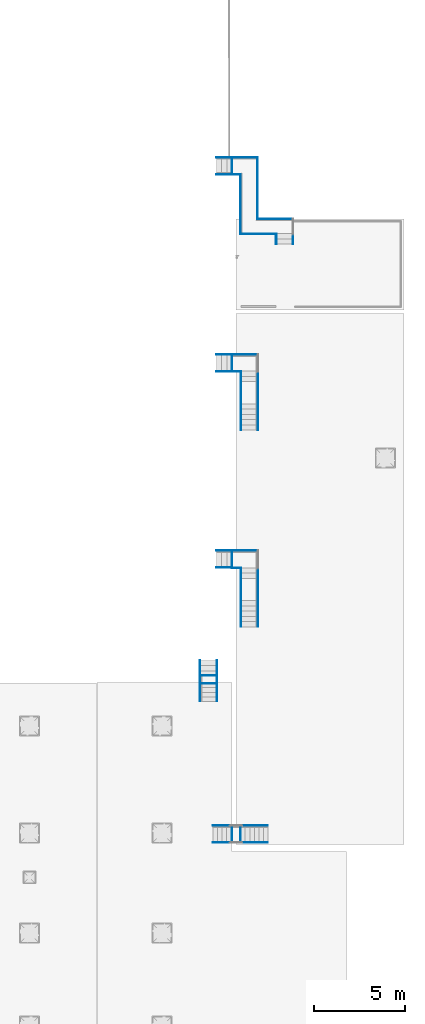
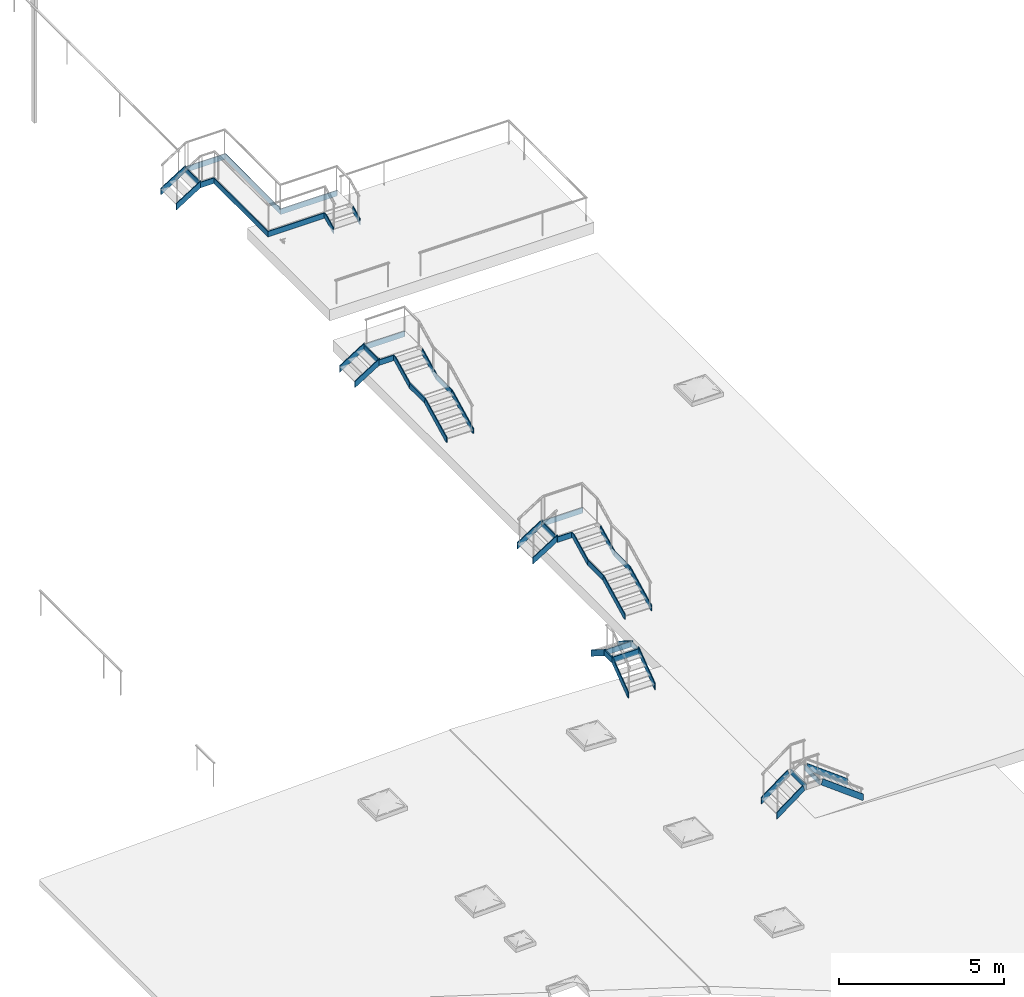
# One storey, part 1 of 15: 51 members, 10 elements without a shape of their own.
"""IFC2X3 building model written with IfcOpenShell, lengths in centimetres."""

from ifc_helpers import new_model, entity, si_unit, converted_unit, derived_unit, direction, frame, origin, place, context, subcontext, project, spatial, polyline, outline, extrude, material, type_object, element, aggregate, save


model = new_model("IFC2X3")

# Units and contexts
model_context = context("Model", 3, precision=0.001, world=origin(), true_north=direction((6.12303176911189e-17, 1.0)))
body_context = subcontext(model_context, "Body", "Model", "MODEL_VIEW")
ifc_project = project(units=[si_unit("LENGTHUNIT", "METRE", prefix="CENTI"), si_unit("AREAUNIT", "SQUARE_METRE"), si_unit("VOLUMEUNIT", "CUBIC_METRE"), converted_unit("PLANEANGLEUNIT", "DEGREE", entity("IfcRatioMeasure", 0.0174532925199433), si_unit("PLANEANGLEUNIT", "RADIAN"), dimensions=[0, 0, 0, 0, 0, 0, 0]), si_unit("MASSUNIT", "GRAM", prefix="KILO"), si_unit("TIMEUNIT", "SECOND"), si_unit("FREQUENCYUNIT", "HERTZ"), si_unit("THERMODYNAMICTEMPERATUREUNIT", "DEGREE_CELSIUS"), derived_unit("THERMALTRANSMITTANCEUNIT", [(si_unit("MASSUNIT", "GRAM", prefix="KILO"), 1), (si_unit("THERMODYNAMICTEMPERATUREUNIT", "KELVIN"), -1), (si_unit("TIMEUNIT", "SECOND"), -3)]), derived_unit("VOLUMETRICFLOWRATEUNIT", [(si_unit("LENGTHUNIT", "METRE"), 3), (si_unit("TIMEUNIT", "SECOND"), -1)]), si_unit("ELECTRICCURRENTUNIT", "AMPERE"), si_unit("ELECTRICVOLTAGEUNIT", "VOLT"), si_unit("POWERUNIT", "WATT"), si_unit("FORCEUNIT", "NEWTON", prefix="KILO"), si_unit("ILLUMINANCEUNIT", "LUX"), si_unit("LUMINOUSFLUXUNIT", "LUMEN"), si_unit("LUMINOUSINTENSITYUNIT", "CANDELA"), derived_unit("USERDEFINED", [(si_unit("MASSUNIT", "GRAM", prefix="KILO"), -1), (si_unit("LENGTHUNIT", "METRE"), -2), (si_unit("TIMEUNIT", "SECOND"), 3), (si_unit("LUMINOUSFLUXUNIT", "LUMEN"), 1)]), derived_unit("LINEARVELOCITYUNIT", [(si_unit("LENGTHUNIT", "METRE"), 1), (si_unit("TIMEUNIT", "SECOND"), -1)]), si_unit("PRESSUREUNIT", "PASCAL"), derived_unit("USERDEFINED", [(si_unit("LENGTHUNIT", "METRE"), -2), (si_unit("MASSUNIT", "GRAM", prefix="KILO"), 1), (si_unit("TIMEUNIT", "SECOND"), -2)])], contexts=[model_context])

# Site, building, storey
site_placement = place(None, frame((8.62739174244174, -249.285249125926, 0.0)))
site = spatial("IfcSite", under=ifc_project, at=site_placement, Name="Default", CompositionType="ELEMENT")
building_placement = place(site_placement, origin())
building = spatial("IfcBuilding", under=site, at=building_placement, CompositionType="ELEMENT")
storey_placement = place(building_placement, frame((0.0, 0.0, 801.0)))
storey = spatial("IfcBuildingStorey", under=building, at=storey_placement, Name="Acrotère E3", CompositionType="ELEMENT", Elevation=801.0)

# Stair, members
stair_1_placement = place(building_placement, frame((0.0, 0.0, 801.0)))
stair_1 = element("IfcStair", 1, at=stair_1_placement, inside=storey, Name="Escalier assemblé:Escalier", ShapeType="NOTDEFINED")
ifc_material = material(Name="Acier, 45-345")
member_type = type_object("IfcMemberType", Name="Limon à la française:Limon à la française - 30 mm", PredefinedType="STRINGER")
member_1_placement = place(stair_1_placement, origin())
member_1 = element("IfcMember", 2, at=member_1_placement, type_object=member_type, material=ifc_material, Name="Escalier assemblé:Escalier:1444679 Stringer 1", ObjectType="Escalier assemblé:Escalier métallique", context=body_context, shape_type="SweptSolid", body=[
    extrude(outline(polyline([(-53.9089825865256, -33.6089014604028), (-47.9318833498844, -33.6089014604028), (80.2436891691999, 30.7244318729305), (75.5061593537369, 50.7244318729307), (-53.9089825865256, -14.2310608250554), (-53.9089825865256, -33.6089014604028)])), frame((3080.90482781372, 3906.09417595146, -43.3910985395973), z_axis=(1.0, 0.0, 0.0), x_axis=(0.0, 1.0, 0.0)), (0.0, 0.0, 1.0), 3.00000000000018),
])
member_2_placement = place(stair_1_placement, origin())
member_2 = element("IfcMember", 3, at=member_2_placement, type_object=member_type, material=ifc_material, Name="Escalier assemblé:Escalier:1444679 Stringer 2", ObjectType="Escalier assemblé:Escalier métallique", context=body_context, shape_type="SweptSolid", body=[
    extrude(outline(polyline([(-53.9089825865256, -33.6089014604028), (-47.9318833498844, -33.6089014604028), (80.2436891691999, 30.7244318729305), (75.5061593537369, 50.7244318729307), (-53.9089825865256, -14.2310608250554), (-53.9089825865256, -33.6089014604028)])), frame((3173.90482781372, 3906.09417595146, -43.3910985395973), z_axis=(1.0, 0.0, 0.0), x_axis=(0.0, 1.0, 0.0)), (0.0, 0.0, 1.0), 3.00000000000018),
])
member_3_placement = place(stair_1_placement, origin())
member_3 = element("IfcMember", 4, at=member_3_placement, type_object=member_type, material=ifc_material, Name="Escalier assemblé:Escalier:1444679 Stringer 3", ObjectType="Escalier assemblé:Escalier métallique", context=body_context, shape_type="SweptSolid", body=[
    extrude(outline(polyline([(-65.2542659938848, -10.8709298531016), (40.8696538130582, -10.8709298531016), (48.0744777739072, 3.48371941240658), (36.8268705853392, 9.12907014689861), (-60.5167361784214, 9.12907014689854), (-65.2542659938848, -10.8709298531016)])), frame((3080.90482781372, 4133.07190307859, 26.3210727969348), z_axis=(1.0, 0.0, 0.0), x_axis=(0.0, 0.893741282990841, 0.44858278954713)), (0.0, 0.0, 1.0), 3.00000000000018),
])
member_4_placement = place(stair_1_placement, origin())
member_4 = element("IfcMember", 5, at=member_4_placement, type_object=member_type, material=ifc_material, Name="Escalier assemblé:Escalier:1444679 Stringer 4", ObjectType="Escalier assemblé:Escalier métallique", context=body_context, shape_type="SweptSolid", body=[
    extrude(outline(polyline([(-51.0405682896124, -10.0), (46.3030384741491, -10.0), (51.0405682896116, 10.0), (-46.303038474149, 10.0), (-51.0405682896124, -10.0)])), frame((3173.90482781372, 4120.75921879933, 19.1666666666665), z_axis=(1.0, 0.0, 0.0), x_axis=(0.0, 0.893741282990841, 0.44858278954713)), (0.0, 0.0, 1.0), 3.00000000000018),
])
member_5_placement = place(stair_1_placement, origin())
member_5 = element("IfcMember", 6, at=member_5_placement, type_object=member_type, material=ifc_material, Name="Escalier assemblé:Escalier:1444679 Stringer 5", ObjectType="Escalier assemblé:Escalier métallique", context=body_context, shape_type="SweptSolid", body=[
    extrude(outline(polyline([(-44.2762943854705, -10.0), (49.0138242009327, -10.0), (44.2762943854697, 10.0), (-49.0138242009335, 10.0), (-44.2762943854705, -10.0)])), frame((3080.90482781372, 4030.61415950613, -2.66666666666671), z_axis=(1.0, 0.0, 0.0), x_axis=(0.0, -1.0, 0.0)), (0.0, 0.0, 1.0), 3.00000000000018),
])
member_6_placement = place(stair_1_placement, origin())
member_6 = element("IfcMember", 7, at=member_6_placement, type_object=member_type, material=ifc_material, Name="Escalier assemblé:Escalier:1444679 Stringer 6", ObjectType="Escalier assemblé:Escalier métallique", context=body_context, shape_type="SweptSolid", body=[
    extrude(outline(polyline([(-73.0, -1.49999999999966), (73.0, -1.49999999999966), (70.0, 1.50000000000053), (-70.0, 1.50000000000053), (-73.0, -1.49999999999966)])), frame((3103.90482780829, 4271.97531195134, 31.0), z_axis=(0.0, 0.0, 1.0), x_axis=(-1.0, 0.0, 0.0)), (0.0, 0.0, 1.0), 20.0),
])
member_7_placement = place(stair_1_placement, origin())
member_7 = element("IfcMember", 8, at=member_7_placement, type_object=member_type, material=ifc_material, Name="Escalier assemblé:Escalier:1444679 Stringer 7", ObjectType="Escalier assemblé:Escalier métallique", context=body_context, shape_type="SweptSolid", body=[
    extrude(outline(polyline([(-49.5000000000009, -1.50000000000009), (49.5, -1.50000000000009), (46.4999999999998, 1.50000000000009), (-46.5000000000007, 1.50000000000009), (-49.5000000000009, -1.50000000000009)])), frame((3032.40482780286, 4223.97531195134, 31.0), z_axis=(0.0, 0.0, 1.0), x_axis=(0.0, -1.0, 0.0)), (0.0, 0.0, 1.0), 20.0),
])
member_8_placement = place(stair_1_placement, origin())
member_8 = element("IfcMember", 9, at=member_8_placement, type_object=member_type, material=ifc_material, Name="Escalier assemblé:Escalier:1444679 Stringer 9", ObjectType="Escalier assemblé:Escalier métallique", context=body_context, shape_type="SweptSolid", body=[
    extrude(outline(polyline([(-44.2762943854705, -10.0), (49.0138242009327, -10.0), (44.2762943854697, 10.0), (-49.0138242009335, 10.0), (-44.2762943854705, -10.0)])), frame((3173.90482781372, 4030.61415950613, -2.66666666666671), z_axis=(1.0, 0.0, 0.0), x_axis=(0.0, 1.0, 0.0)), (0.0, 0.0, 1.0), 3.00000000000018),
])
member_9_placement = place(stair_1_placement, origin())
member_9 = element("IfcMember", 10, at=member_9_placement, type_object=member_type, material=ifc_material, Name="Escalier assemblé:Escalier:1444679 Stringer 10", ObjectType="Escalier assemblé:Escalier métallique", context=body_context, shape_type="SweptSolid", body=[
    extrude(outline(polyline([(-27.2500000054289, -1.50000000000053), (25.7500000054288, -1.50000000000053), (25.7500000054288, 1.49999999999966), (-24.2500000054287, 1.49999999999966), (-27.2500000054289, -1.50000000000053)])), frame((3058.15482780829, 4175.97531195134, 31.0)), (0.0, 0.0, 1.0), 20.0),
])
aggregate(stair_1, [member_1, member_2, member_3, member_4, member_5, member_6, member_7, member_8, member_9])

stair_2_placement = place(storey_placement, origin())
stair_2 = element("IfcStair", 11, at=stair_2_placement, inside=storey, Name="Escalier assemblé:Escalier", ShapeType="NOTDEFINED")
member_10_placement = place(stair_2_placement, origin())
member_10 = element("IfcMember", 12, at=member_10_placement, type_object=member_type, material=ifc_material, Name="Escalier assemblé:Escalier:1452997 Stringer 1", ObjectType="Escalier assemblé:Escalier métallique toiture", context=body_context, shape_type="SweptSolid", body=[
    extrude(outline(polyline([(-45.091187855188, -10.0), (57.658237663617, -10.0), (45.0911878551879, 10.0), (-57.6582376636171, 10.0), (-45.091187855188, -10.0)])), frame((2990.40482781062, 4270.47531195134, 17.2547232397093), z_axis=(0.0, 1.0, 0.0), x_axis=(0.846720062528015, 0.0, 0.532038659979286)), (0.0, 0.0, 1.0), 3.00000000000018),
])
member_11_placement = place(stair_2_placement, origin())
member_11 = element("IfcMember", 13, at=member_11_placement, type_object=member_type, material=ifc_material, Name="Escalier assemblé:Escalier:1452997 Stringer 2", ObjectType="Escalier assemblé:Escalier métallique toiture", context=body_context, shape_type="SweptSolid", body=[
    extrude(outline(polyline([(-45.091187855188, -10.0), (57.658237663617, -10.0), (45.0911878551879, 10.0), (-57.6582376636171, 10.0), (-45.091187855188, -10.0)])), frame((2990.40482781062, 4177.47531195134, 17.2547232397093), z_axis=(0.0, 1.0, 0.0), x_axis=(0.846720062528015, 0.0, 0.532038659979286)), (0.0, 0.0, 1.0), 3.00000000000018),
])
aggregate(stair_2, [member_10, member_11])

stair_3_placement = place(storey_placement, origin())
stair_3 = element("IfcStair", 14, at=stair_3_placement, inside=storey, Name="Escalier assemblé:Escalier", ShapeType="NOTDEFINED")
member_12_placement = place(stair_3_placement, origin())
member_12 = element("IfcMember", 15, at=member_12_placement, type_object=member_type, material=ifc_material, Name="Escalier assemblé:Escalier:1453682 Stringer 1", ObjectType="Escalier assemblé:Escalier métallique", context=body_context, shape_type="SweptSolid", body=[
    extrude(outline(polyline([(-53.9089825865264, -33.6089014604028), (-47.9318833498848, -33.6089014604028), (80.243689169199, 30.7244318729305), (75.506159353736, 50.7244318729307), (-53.9089825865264, -14.2310608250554), (-53.9089825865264, -33.6089014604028)])), frame((3080.90482780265, 4987.84070358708, -43.3910985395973), z_axis=(1.0, 0.0, 0.0), x_axis=(0.0, 1.0, 0.0)), (0.0, 0.0, 1.0), 3.00000000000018),
])
member_13_placement = place(stair_3_placement, origin())
member_13 = element("IfcMember", 16, at=member_13_placement, type_object=member_type, material=ifc_material, Name="Escalier assemblé:Escalier:1453682 Stringer 2", ObjectType="Escalier assemblé:Escalier métallique", context=body_context, shape_type="SweptSolid", body=[
    extrude(outline(polyline([(-53.9089825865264, -33.6089014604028), (-47.9318833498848, -33.6089014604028), (80.243689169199, 30.7244318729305), (75.506159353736, 50.7244318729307), (-53.9089825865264, -14.2310608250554), (-53.9089825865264, -33.6089014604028)])), frame((3173.90482780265, 4987.84070358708, -43.3910985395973), z_axis=(1.0, 0.0, 0.0), x_axis=(0.0, 1.0, 0.0)), (0.0, 0.0, 1.0), 3.00000000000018),
])
member_14_placement = place(stair_3_placement, origin())
member_14 = element("IfcMember", 17, at=member_14_placement, type_object=member_type, material=ifc_material, Name="Escalier assemblé:Escalier:1453682 Stringer 3", ObjectType="Escalier assemblé:Escalier métallique", context=body_context, shape_type="SweptSolid", body=[
    extrude(outline(polyline([(-65.2542659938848, -10.8709298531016), (40.8696538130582, -10.8709298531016), (48.0744777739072, 3.48371941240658), (36.8268705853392, 9.12907014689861), (-60.5167361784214, 9.12907014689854), (-65.2542659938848, -10.8709298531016)])), frame((3080.90482780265, 5214.07382690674, 26.3210727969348), z_axis=(1.0, 0.0, 0.0), x_axis=(0.0, 0.893741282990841, 0.44858278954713)), (0.0, 0.0, 1.0), 3.00000000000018),
])
member_15_placement = place(stair_3_placement, origin())
member_15 = element("IfcMember", 18, at=member_15_placement, type_object=member_type, material=ifc_material, Name="Escalier assemblé:Escalier:1453682 Stringer 4", ObjectType="Escalier assemblé:Escalier métallique", context=body_context, shape_type="SweptSolid", body=[
    extrude(outline(polyline([(-51.0405682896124, -10.0), (46.3030384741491, -10.0), (51.0405682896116, 10.0), (-46.303038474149, 10.0), (-51.0405682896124, -10.0)])), frame((3173.90482780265, 5201.76114262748, 19.1666666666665), z_axis=(1.0, 0.0, 0.0), x_axis=(0.0, 0.893741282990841, 0.44858278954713)), (0.0, 0.0, 1.0), 3.00000000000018),
])
member_16_placement = place(stair_3_placement, origin())
member_16 = element("IfcMember", 19, at=member_16_placement, type_object=member_type, material=ifc_material, Name="Escalier assemblé:Escalier:1453682 Stringer 5", ObjectType="Escalier assemblé:Escalier métallique", context=body_context, shape_type="SweptSolid", body=[
    extrude(outline(polyline([(-43.9039924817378, -10.0), (48.6415222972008, -10.0), (43.9039924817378, 10.0), (-48.6415222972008, 10.0), (-43.9039924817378, -10.0)])), frame((3080.90482780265, 5111.98838523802, -2.66666666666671), z_axis=(1.0, 0.0, 0.0), x_axis=(0.0, -1.0, 0.0)), (0.0, 0.0, 1.0), 3.00000000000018),
])
member_17_placement = place(stair_3_placement, origin())
member_17 = element("IfcMember", 20, at=member_17_placement, type_object=member_type, material=ifc_material, Name="Escalier assemblé:Escalier:1453682 Stringer 6", ObjectType="Escalier assemblé:Escalier métallique", context=body_context, shape_type="SweptSolid", body=[
    extrude(outline(polyline([(-73.0, -1.50000000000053), (73.0, -1.50000000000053), (70.0, 1.49999999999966), (-70.0, 1.49999999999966), (-73.0, -1.50000000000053)])), frame((3103.90482780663, 5349.97723577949, 31.0), z_axis=(0.0, 0.0, 1.0), x_axis=(-1.0, 0.0, 0.0)), (0.0, 0.0, 1.0), 20.0),
])
member_18_placement = place(stair_3_placement, origin())
member_18 = element("IfcMember", 21, at=member_18_placement, type_object=member_type, material=ifc_material, Name="Escalier assemblé:Escalier:1453682 Stringer 7", ObjectType="Escalier assemblé:Escalier métallique", context=body_context, shape_type="SweptSolid", body=[
    extrude(outline(polyline([(-48.0, -1.50000000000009), (48.0, -1.50000000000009), (45.0, 1.50000000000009), (-45.0, 1.50000000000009), (-48.0, -1.50000000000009)])), frame((3032.40482781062, 5303.47723577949, 31.0), z_axis=(0.0, 0.0, 1.0), x_axis=(0.0, -1.0, 0.0)), (0.0, 0.0, 1.0), 20.0),
])
member_19_placement = place(stair_3_placement, origin())
member_19 = element("IfcMember", 22, at=member_19_placement, type_object=member_type, material=ifc_material, Name="Escalier assemblé:Escalier:1453682 Stringer 9", ObjectType="Escalier assemblé:Escalier métallique", context=body_context, shape_type="SweptSolid", body=[
    extrude(outline(polyline([(-27.2499999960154, -1.50000000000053), (25.7499999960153, -1.50000000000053), (25.7499999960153, 1.49999999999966), (-24.2499999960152, 1.49999999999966), (-27.2499999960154, -1.50000000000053)])), frame((3058.15482780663, 5256.97723577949, 31.0)), (0.0, 0.0, 1.0), 20.0),
])
member_20_placement = place(stair_3_placement, origin())
member_20 = element("IfcMember", 23, at=member_20_placement, type_object=member_type, material=ifc_material, Name="Escalier assemblé:Escalier:1453682 Stringer 10", ObjectType="Escalier assemblé:Escalier métallique", context=body_context, shape_type="SweptSolid", body=[
    extrude(outline(polyline([(-43.9039924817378, -10.0), (48.6415222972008, -10.0), (43.9039924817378, 10.0), (-48.6415222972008, 10.0), (-43.9039924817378, -10.0)])), frame((3173.90482780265, 5111.98838523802, -2.66666666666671), z_axis=(1.0, 0.0, 0.0), x_axis=(0.0, 1.0, 0.0)), (0.0, 0.0, 1.0), 3.00000000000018),
])
aggregate(stair_3, [member_12, member_13, member_14, member_15, member_16, member_17, member_18, member_19, member_20])

stair_4_placement = place(storey_placement, origin())
stair_4 = element("IfcStair", 24, at=stair_4_placement, inside=storey, Name="Escalier assemblé:Escalier", ShapeType="NOTDEFINED")
member_21_placement = place(stair_4_placement, origin())
member_21 = element("IfcMember", 25, at=member_21_placement, type_object=member_type, material=ifc_material, Name="Escalier assemblé:Escalier:1453709 Stringer 1", ObjectType="Escalier assemblé:Escalier métallique toiture", context=body_context, shape_type="SweptSolid", body=[
    extrude(outline(polyline([(-45.091187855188, -10.0), (57.658237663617, -10.0), (45.0911878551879, 10.0), (-57.6582376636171, 10.0), (-45.091187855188, -10.0)])), frame((2990.40482781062, 5348.47723577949, 17.2547232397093), z_axis=(0.0, 1.0, 0.0), x_axis=(0.846720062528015, 0.0, 0.532038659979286)), (0.0, 0.0, 1.0), 3.00000000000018),
])
member_22_placement = place(stair_4_placement, origin())
member_22 = element("IfcMember", 26, at=member_22_placement, type_object=member_type, material=ifc_material, Name="Escalier assemblé:Escalier:1453709 Stringer 2", ObjectType="Escalier assemblé:Escalier métallique toiture", context=body_context, shape_type="SweptSolid", body=[
    extrude(outline(polyline([(-45.091187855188, -10.0), (57.658237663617, -10.0), (45.0911878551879, 10.0), (-57.6582376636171, 10.0), (-45.091187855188, -10.0)])), frame((2990.40482781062, 5255.47723577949, 17.2547232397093), z_axis=(0.0, 1.0, 0.0), x_axis=(0.846720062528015, 0.0, 0.532038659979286)), (0.0, 0.0, 1.0), 3.00000000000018),
])
aggregate(stair_4, [member_21, member_22])

stair_5_placement = place(storey_placement, origin())
stair_5 = element("IfcStair", 27, at=stair_5_placement, inside=storey, Name="Escalier assemblé:Escalier", ShapeType="NOTDEFINED")
member_23_placement = place(stair_5_placement, origin())
member_23 = element("IfcMember", 28, at=member_23_placement, type_object=member_type, material=ifc_material, Name="Escalier assemblé:Escalier:1453820 Stringer 1", ObjectType="Escalier assemblé:Escalier métallique", context=body_context, shape_type="SweptSolid", body=[
    extrude(outline(polyline([(-39.5635080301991, -10.8709298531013), (21.975553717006, -10.8709298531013), (29.180377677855, 3.48371941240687), (17.932770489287, 9.12907014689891), (-29.5251938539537, 9.12907014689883), (-39.5635080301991, -10.8709298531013)])), frame((3274.90482780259, 5987.46323652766, 34.7966409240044), z_axis=(1.0, 0.0, 0.0), x_axis=(0.0, 0.893741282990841, 0.448582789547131)), (0.0, 0.0, 1.0), 3.00000000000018),
])
member_24_placement = place(stair_5_placement, origin())
member_24 = element("IfcMember", 29, at=member_24_placement, type_object=member_type, material=ifc_material, Name="Escalier assemblé:Escalier:1453820 Stringer 2", ObjectType="Escalier assemblé:Escalier métallique", context=body_context, shape_type="SweptSolid", body=[
    extrude(outline(polyline([(-30.0733353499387, -10.0), (22.6854133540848, -10.0), (27.4229431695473, 10.0), (-20.0350211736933, 10.0), (-30.0733353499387, -10.0)])), frame((3367.90482780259, 5979.3721615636, 29.7611268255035), z_axis=(1.0, 0.0, 0.0), x_axis=(0.0, 0.893741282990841, 0.448582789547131)), (0.0, 0.0, 1.0), 3.00000000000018),
])
member_25_placement = place(stair_5_placement, origin())
member_25 = element("IfcMember", 30, at=member_25_placement, type_object=member_type, material=ifc_material, Name="Escalier assemblé:Escalier:1453820 Stringer 3", ObjectType="Escalier assemblé:Escalier métallique", context=body_context, shape_type="SweptSolid", body=[
    extrude(outline(polyline([(-71.4999999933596, -1.50000000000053), (71.4999999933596, -1.50000000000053), (68.4999999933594, 1.49999999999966), (-68.4999999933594, 1.49999999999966), (-71.4999999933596, -1.50000000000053)])), frame((3102.40482780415, 6433.97742132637, 31.0), z_axis=(0.0, 0.0, 1.0), x_axis=(-1.0, 0.0, 0.0)), (0.0, 0.0, 1.0), 20.0),
])
member_26_placement = place(stair_5_placement, origin())
member_26 = element("IfcMember", 31, at=member_26_placement, type_object=member_type, material=ifc_material, Name="Escalier assemblé:Escalier:1453820 Stringer 4", ObjectType="Escalier assemblé:Escalier métallique", context=body_context, shape_type="SweptSolid", body=[
    extrude(outline(polyline([(-48.0, -1.50000000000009), (48.0, -1.50000000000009), (45.0, 1.50000000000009), (-45.0, 1.50000000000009), (-48.0, -1.50000000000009)])), frame((3032.40482781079, 6387.47742132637, 31.0), z_axis=(0.0, 0.0, 1.0), x_axis=(0.0, -1.0, 0.0)), (0.0, 0.0, 1.0), 20.0),
])
member_27_placement = place(stair_5_placement, origin())
member_27 = element("IfcMember", 32, at=member_27_placement, type_object=member_type, material=ifc_material, Name="Escalier assemblé:Escalier:1453820 Stringer 5", ObjectType="Escalier assemblé:Escalier métallique", context=body_context, shape_type="SweptSolid", body=[
    extrude(outline(polyline([(-167.248606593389, -1.5000000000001), (170.24860659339, -1.50000000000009), (167.248606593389, 1.5000000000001), (-170.248606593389, 1.50000000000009), (-167.248606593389, -1.5000000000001)])), frame((3172.40482779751, 6265.22881473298, 31.0), z_axis=(0.0, 0.0, 1.0), x_axis=(0.0, 1.0, 0.0)), (0.0, 0.0, 1.0), 20.0),
])
member_28_placement = place(stair_5_placement, origin())
member_28 = element("IfcMember", 33, at=member_28_placement, type_object=member_type, material=ifc_material, Name="Escalier assemblé:Escalier:1453820 Stringer 6", ObjectType="Escalier assemblé:Escalier métallique", context=body_context, shape_type="SweptSolid", body=[
    extrude(outline(polyline([(-100.0, -1.50000000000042), (97.0, -1.50000000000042), (100.0, 1.49999999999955), (-97.0, 1.49999999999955), (-100.0, -1.50000000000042)])), frame((3270.90482780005, 6096.48020813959, 31.0), z_axis=(0.0, 0.0, 1.0), x_axis=(-1.0, 0.0, 0.0)), (0.0, 0.0, 1.0), 20.0),
])
member_29_placement = place(stair_5_placement, origin())
member_29 = element("IfcMember", 34, at=member_29_placement, type_object=member_type, material=ifc_material, Name="Escalier assemblé:Escalier:1453820 Stringer 7", ObjectType="Escalier assemblé:Escalier métallique", context=body_context, shape_type="SweptSolid", body=[
    extrude(outline(polyline([(-25.0, -1.50000000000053), (22.0, -1.50000000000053), (25.0, 1.49999999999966), (-22.0, 1.49999999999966), (-25.0, -1.50000000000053)])), frame((3055.90482781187, 6340.97742132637, 31.0)), (0.0, 0.0, 1.0), 20.0),
])
member_30_placement = place(stair_5_placement, origin())
member_30 = element("IfcMember", 35, at=member_30_placement, type_object=member_type, material=ifc_material, Name="Escalier assemblé:Escalier:1453820 Stringer 8", ObjectType="Escalier assemblé:Escalier métallique", context=body_context, shape_type="SweptSolid", body=[
    extrude(outline(polyline([(-162.248606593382, -1.5000000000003), (165.248606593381, -1.50000000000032), (162.248606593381, 1.49999999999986), (-165.248606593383, 1.49999999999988), (-162.248606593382, -1.5000000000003)])), frame((3079.40482781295, 6177.22881473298, 31.0), z_axis=(0.0, 0.0, 1.0), x_axis=(0.0, -1.0, 0.0)), (0.0, 0.0, 1.0), 20.0),
])
member_31_placement = place(stair_5_placement, origin())
member_31 = element("IfcMember", 36, at=member_31_placement, type_object=member_type, material=ifc_material, Name="Escalier assemblé:Escalier:1453820 Stringer 10", ObjectType="Escalier assemblé:Escalier métallique", context=body_context, shape_type="SweptSolid", body=[
    extrude(outline(polyline([(-100.749999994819, -1.49999999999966), (99.2499999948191, -1.49999999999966), (99.2499999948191, 1.50000000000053), (-97.749999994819, 1.50000000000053), (-100.749999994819, -1.49999999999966)])), frame((3178.65482780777, 6013.4802081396, 31.0)), (0.0, 0.0, 1.0), 20.0),
])
aggregate(stair_5, [member_23, member_24, member_25, member_26, member_27, member_28, member_29, member_30, member_31])

stair_6_placement = place(storey_placement, origin())
stair_6 = element("IfcStair", 37, at=stair_6_placement, inside=storey, Name="Escalier assemblé:Escalier", ShapeType="NOTDEFINED")
member_32_placement = place(stair_6_placement, origin())
member_32 = element("IfcMember", 38, at=member_32_placement, type_object=member_type, material=ifc_material, Name="Escalier assemblé:Escalier:1453845 Stringer 1", ObjectType="Escalier assemblé:Escalier métallique toiture", context=body_context, shape_type="SweptSolid", body=[
    extrude(outline(polyline([(-45.091187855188, -10.0), (57.658237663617, -10.0), (45.0911878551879, 10.0), (-57.6582376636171, 10.0), (-45.091187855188, -10.0)])), frame((2990.40482781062, 6432.47742132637, 17.2547232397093), z_axis=(0.0, 1.0, 0.0), x_axis=(0.846720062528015, 0.0, 0.532038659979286)), (0.0, 0.0, 1.0), 3.00000000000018),
])
member_33_placement = place(stair_6_placement, origin())
member_33 = element("IfcMember", 39, at=member_33_placement, type_object=member_type, material=ifc_material, Name="Escalier assemblé:Escalier:1453845 Stringer 2", ObjectType="Escalier assemblé:Escalier métallique toiture", context=body_context, shape_type="SweptSolid", body=[
    extrude(outline(polyline([(-45.091187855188, -10.0), (57.658237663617, -10.0), (45.0911878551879, 10.0), (-57.6582376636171, 10.0), (-45.091187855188, -10.0)])), frame((2990.40482781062, 6339.47742132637, 17.2547232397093), z_axis=(0.0, 1.0, 0.0), x_axis=(0.846720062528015, 0.0, 0.532038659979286)), (0.0, 0.0, 1.0), 3.00000000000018),
])
aggregate(stair_6, [member_32, member_33])

stair_7_placement = place(building_placement, frame((0.0, 0.0, 801.0)))
stair_7 = element("IfcStair", 40, at=stair_7_placement, inside=storey, Name="Escalier assemblé:Escalier", ShapeType="NOTDEFINED")
member_34_placement = place(stair_7_placement, origin())
member_34 = element("IfcMember", 41, at=member_34_placement, type_object=member_type, material=ifc_material, Name="Escalier assemblé:Escalier:1460621 Stringer 1", ObjectType="Escalier assemblé:Escalier métallique toiture", context=body_context, shape_type="SweptSolid", body=[
    extrude(outline(polyline([(-58.7832033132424, -51.5965735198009), (-54.7755697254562, -51.5965735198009), (89.4992394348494, 56.4034264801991), (82.8427369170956, 76.4034264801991), (-58.7832033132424, -29.6137059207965), (-58.7832033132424, -51.5965735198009)])), frame((3172.1216245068, 2664.98020806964, -25.4034264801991), z_axis=(0.0, 1.0, 0.0), x_axis=(-1.0, 0.0, 0.0)), (0.0, 0.0, 1.0), 3.00000000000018),
])
member_35_placement = place(stair_7_placement, origin())
member_35 = element("IfcMember", 42, at=member_35_placement, type_object=member_type, material=ifc_material, Name="Escalier assemblé:Escalier:1460621 Stringer 2", ObjectType="Escalier assemblé:Escalier métallique toiture", context=body_context, shape_type="SweptSolid", body=[
    extrude(outline(polyline([(-58.7832033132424, -51.5965735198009), (-54.7755697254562, -51.5965735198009), (89.4992394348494, 56.4034264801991), (82.8427369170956, 76.4034264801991), (-58.7832033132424, -29.6137059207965), (-58.7832033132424, -51.5965735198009)])), frame((3172.1216245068, 2757.98020806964, -25.4034264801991), z_axis=(0.0, 1.0, 0.0), x_axis=(-1.0, 0.0, 0.0)), (0.0, 0.0, 1.0), 3.00000000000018),
])
member_36_placement = place(stair_7_placement, origin())
member_36 = element("IfcMember", 43, at=member_36_placement, type_object=member_type, material=ifc_material, Name="Escalier assemblé:Escalier:1460621 Stringer 4", ObjectType="Escalier assemblé:Escalier métallique toiture", context=body_context, shape_type="SweptSolid", body=[
    extrude(outline(polyline([(-48.0, -1.49999999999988), (48.0, -1.49999999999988), (45.0, 1.5000000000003), (-45.0, 1.50000000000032), (-48.0, -1.49999999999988)])), frame((3032.40482782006, 2712.98020806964, 31.0), z_axis=(0.0, 0.0, 1.0), x_axis=(0.0, -1.0, 0.0)), (0.0, 0.0, 1.0), 20.0),
])
aggregate(stair_7, [member_34, member_35, member_36])

stair_8_placement = place(building_placement, frame((0.0, 0.0, 801.0)))
stair_8 = element("IfcStair", 44, at=stair_8_placement, inside=storey, Name="Escalier assemblé:Escalier", ShapeType="NOTDEFINED")
member_37_placement = place(stair_8_placement, origin())
member_37 = element("IfcMember", 45, at=member_37_placement, type_object=member_type, material=ifc_material, Name="Escalier assemblé:Escalier:1461006 Stringer 1", ObjectType="Escalier assemblé:Escalier métallique toiture", context=body_context, shape_type="SweptSolid", body=[
    extrude(outline(polyline([(-51.8199855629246, -10.0), (62.6339511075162, -10.0), (55.9774485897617, 10.0), (-66.7914141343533, 10.0), (-51.8199855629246, -10.0)])), frame((2975.38192356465, 2757.98020806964, 5.46000261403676), z_axis=(0.0, 1.0, 0.0), x_axis=(0.800548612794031, 0.0, 0.599267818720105)), (0.0, 0.0, 1.0), 3.00000000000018),
])
member_38_placement = place(stair_8_placement, origin())
member_38 = element("IfcMember", 46, at=member_38_placement, type_object=member_type, material=ifc_material, Name="Escalier assemblé:Escalier:1461006 Stringer 2", ObjectType="Escalier assemblé:Escalier métallique toiture", context=body_context, shape_type="SweptSolid", body=[
    extrude(outline(polyline([(-51.8199855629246, -10.0), (62.6339511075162, -10.0), (55.9774485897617, 10.0), (-66.7914141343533, 10.0), (-51.8199855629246, -10.0)])), frame((2975.38192356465, 2664.98020806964, 5.46000261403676), z_axis=(0.0, 1.0, 0.0), x_axis=(0.800548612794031, 0.0, 0.599267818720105)), (0.0, 0.0, 1.0), 3.00000000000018),
])
member_39_placement = place(stair_8_placement, origin())
member_39 = element("IfcMember", 47, at=member_39_placement, type_object=member_type, material=ifc_material, Name="Escalier assemblé:Escalier:1461006 Stringer 5", ObjectType="Escalier assemblé:Escalier métallique toiture", context=body_context, shape_type="SweptSolid", body=[
    extrude(outline(polyline([(-48.0, -1.49999999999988), (48.0, -1.49999999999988), (45.0, 1.5000000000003), (-45.0, 1.50000000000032), (-48.0, -1.49999999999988)])), frame((3079.40482782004, 2712.98020806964, 31.0), z_axis=(0.0, 0.0, 1.0), x_axis=(0.0, 1.0, 0.0)), (0.0, 0.0, 1.0), 20.0),
])
aggregate(stair_8, [member_37, member_38, member_39])

stair_9_placement = place(storey_placement, origin())
stair_9 = element("IfcStair", 48, at=stair_9_placement, inside=storey, Name="Escalier assemblé:Escalier", ShapeType="NOTDEFINED")
member_40_placement = place(stair_9_placement, origin())
member_40 = element("IfcMember", 49, at=member_40_placement, type_object=member_type, material=ifc_material, Name="Escalier assemblé:Escalier:1461847 Stringer 1", ObjectType="Escalier assemblé:Escalier métallique toiture", context=body_context, shape_type="SweptSolid", body=[
    extrude(outline(polyline([(-69.9428832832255, -10.0), (54.9714547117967, -10.0), (69.9428832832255, 10.0), (-54.9714547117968, 10.0), (-69.9428832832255, -10.0)])), frame((2855.97106117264, 3492.98060251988, 7.34857665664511), z_axis=(1.0, 0.0, 0.0), x_axis=(0.0, 0.800548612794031, 0.599267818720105)), (0.0, 0.0, 1.0), 3.00000000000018),
])
member_41_placement = place(stair_9_placement, origin())
member_41 = element("IfcMember", 50, at=member_41_placement, type_object=member_type, material=ifc_material, Name="Escalier assemblé:Escalier:1461847 Stringer 2", ObjectType="Escalier assemblé:Escalier métallique toiture", context=body_context, shape_type="SweptSolid", body=[
    extrude(outline(polyline([(-69.9428832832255, -10.0), (54.9714547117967, -10.0), (69.9428832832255, 10.0), (-54.9714547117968, 10.0), (-69.9428832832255, -10.0)])), frame((2948.97106117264, 3492.98060251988, 7.34857665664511), z_axis=(1.0, 0.0, 0.0), x_axis=(0.0, 0.800548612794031, 0.599267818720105)), (0.0, 0.0, 1.0), 3.00000000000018),
])
member_42_placement = place(stair_9_placement, origin())
member_42 = element("IfcMember", 51, at=member_42_placement, type_object=member_type, material=ifc_material, Name="Escalier assemblé:Escalier:1461847 Stringer 3", ObjectType="Escalier assemblé:Escalier métallique toiture", context=body_context, shape_type="SweptSolid", body=[
    extrude(outline(polyline([(-23.7500000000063, -1.50000000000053), (23.7500000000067, -1.50000000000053), (20.7500000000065, 1.49999999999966), (-20.7500000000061, 1.49999999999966), (-23.7500000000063, -1.50000000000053)])), frame((2857.47106117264, 3563.93519336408, 31.0), z_axis=(0.0, 0.0, 1.0), x_axis=(0.0, -1.0, 0.0)), (0.0, 0.0, 1.0), 20.0),
])
member_43_placement = place(stair_9_placement, origin())
member_43 = element("IfcMember", 52, at=member_43_placement, type_object=member_type, material=ifc_material, Name="Escalier assemblé:Escalier:1461847 Stringer 4", ObjectType="Escalier assemblé:Escalier métallique toiture", context=body_context, shape_type="SweptSolid", body=[
    extrude(outline(polyline([(-23.7500000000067, -1.49999999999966), (23.7500000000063, -1.49999999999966), (20.7500000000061, 1.50000000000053), (-20.7500000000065, 1.50000000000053), (-23.7500000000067, -1.49999999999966)])), frame((2950.47106117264, 3563.93519336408, 31.0), z_axis=(0.0, 0.0, 1.0), x_axis=(0.0, 1.0, 0.0)), (0.0, 0.0, 1.0), 20.0),
])
member_44_placement = place(stair_9_placement, origin())
member_44 = element("IfcMember", 53, at=member_44_placement, type_object=member_type, material=ifc_material, Name="Escalier assemblé:Escalier:1461847 Stringer 5", ObjectType="Escalier assemblé:Escalier métallique toiture", context=body_context, shape_type="SweptSolid", body=[
    extrude(outline(polyline([(-48.0, -1.50000000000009), (48.0, -1.50000000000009), (45.0, 1.50000000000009), (-45.0, 1.50000000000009), (-48.0, -1.50000000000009)])), frame((2903.97106117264, 3586.18519336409, 31.0), z_axis=(0.0, 0.0, 1.0), x_axis=(-1.0, 0.0, 0.0)), (0.0, 0.0, 1.0), 20.0),
])
member_45_placement = place(stair_9_placement, origin())
member_45 = element("IfcMember", 54, at=member_45_placement, type_object=member_type, material=ifc_material, Name="Escalier assemblé:Escalier:1461847 Stringer 6", ObjectType="Escalier assemblé:Escalier métallique toiture", context=body_context, shape_type="SweptSolid", body=[
    extrude(outline(polyline([(-48.0, -1.49999999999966), (48.0, -1.49999999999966), (45.0, 1.50000000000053), (-45.0, 1.50000000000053), (-48.0, -1.49999999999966)])), frame((2903.97106117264, 3541.68519336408, 31.0)), (0.0, 0.0, 1.0), 20.0),
])
aggregate(stair_9, [member_40, member_41, member_42, member_43, member_44, member_45])

stair_10_placement = place(storey_placement, origin())
stair_10 = element("IfcStair", 55, at=stair_10_placement, inside=storey, Name="Escalier assemblé:Escalier", ShapeType="NOTDEFINED")
member_46_placement = place(stair_10_placement, origin())
member_46 = element("IfcMember", 56, at=member_46_placement, type_object=member_type, material=ifc_material, Name="Escalier assemblé:Escalier:1461963 Stringer 1", ObjectType="Escalier assemblé:Escalier métallique toiture", context=body_context, shape_type="SweptSolid", body=[
    extrude(outline(polyline([(-45.091187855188, -10.0), (57.658237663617, -10.0), (45.0911878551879, 10.0), (-57.6582376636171, 10.0), (-45.091187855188, -10.0)])), frame((2949.14525468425, 3624.51084815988, 17.2547232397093), z_axis=(1.0, 0.0, 0.0), x_axis=(0.0, -0.846720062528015, 0.532038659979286)), (0.0, 0.0, 1.0), 3.00000000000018),
])
member_47_placement = place(stair_10_placement, origin())
member_47 = element("IfcMember", 57, at=member_47_placement, type_object=member_type, material=ifc_material, Name="Escalier assemblé:Escalier:1461963 Stringer 2", ObjectType="Escalier assemblé:Escalier métallique toiture", context=body_context, shape_type="SweptSolid", body=[
    extrude(outline(polyline([(-45.091187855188, -10.0), (57.658237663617, -10.0), (45.0911878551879, 10.0), (-57.6582376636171, 10.0), (-45.091187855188, -10.0)])), frame((2856.14525468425, 3624.51084815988, 17.2547232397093), z_axis=(1.0, 0.0, 0.0), x_axis=(0.0, -0.846720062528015, 0.532038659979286)), (0.0, 0.0, 1.0), 3.00000000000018),
])
member_48_placement = place(stair_10_placement, origin())
member_48 = element("IfcMember", 58, at=member_48_placement, type_object=member_type, material=ifc_material, Name="Escalier assemblé:Escalier:1461963 Stringer 3", ObjectType="Escalier assemblé:Escalier métallique toiture", context=body_context, shape_type="SweptSolid", body=[
    extrude(outline(polyline([(-48.0, -1.50000000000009), (48.0, -1.50000000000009), (45.0, 1.50000000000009), (-45.0, 1.50000000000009), (-48.0, -1.50000000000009)])), frame((2904.14525468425, 3586.18519336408, 31.0), z_axis=(0.0, 0.0, 1.0), x_axis=(-1.0, 0.0, 0.0)), (0.0, 0.0, 1.0), 20.0),
])
member_49_placement = place(stair_10_placement, origin())
member_49 = element("IfcMember", 59, at=member_49_placement, type_object=member_type, material=ifc_material, Name="Escalier assemblé:Escalier:1461963 Stringer 4", ObjectType="Escalier assemblé:Escalier métallique toiture", context=body_context, shape_type="SweptSolid", body=[
    extrude(outline(polyline([(-23.7500000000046, -1.50000000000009), (23.7500000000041, -1.50000000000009), (20.7500000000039, 1.50000000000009), (-20.7500000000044, 1.50000000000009), (-23.7500000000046, -1.50000000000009)])), frame((2857.64525468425, 3563.93519336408, 31.0), z_axis=(0.0, 0.0, 1.0), x_axis=(0.0, -1.0, 0.0)), (0.0, 0.0, 1.0), 20.0),
])
member_50_placement = place(stair_10_placement, origin())
member_50 = element("IfcMember", 60, at=member_50_placement, type_object=member_type, material=ifc_material, Name="Escalier assemblé:Escalier:1461963 Stringer 5", ObjectType="Escalier assemblé:Escalier métallique toiture", context=body_context, shape_type="SweptSolid", body=[
    extrude(outline(polyline([(-48.0, -1.49999999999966), (48.0, -1.49999999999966), (45.0, 1.50000000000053), (-45.0, 1.50000000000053), (-48.0, -1.49999999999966)])), frame((2904.14525468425, 3541.68519336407, 31.0)), (0.0, 0.0, 1.0), 20.0),
])
member_51_placement = place(stair_10_placement, origin())
member_51 = element("IfcMember", 61, at=member_51_placement, type_object=member_type, material=ifc_material, Name="Escalier assemblé:Escalier:1461963 Stringer 6", ObjectType="Escalier assemblé:Escalier métallique toiture", context=body_context, shape_type="SweptSolid", body=[
    extrude(outline(polyline([(-23.7500000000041, -1.50000000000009), (23.7500000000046, -1.50000000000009), (20.7500000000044, 1.50000000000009), (-20.7500000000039, 1.50000000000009), (-23.7500000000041, -1.50000000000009)])), frame((2950.64525468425, 3563.93519336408, 31.0), z_axis=(0.0, 0.0, 1.0), x_axis=(0.0, 1.0, 0.0)), (0.0, 0.0, 1.0), 20.0),
])
aggregate(stair_10, [member_46, member_47, member_48, member_49, member_50, member_51])

save(model, "model.ifc")
